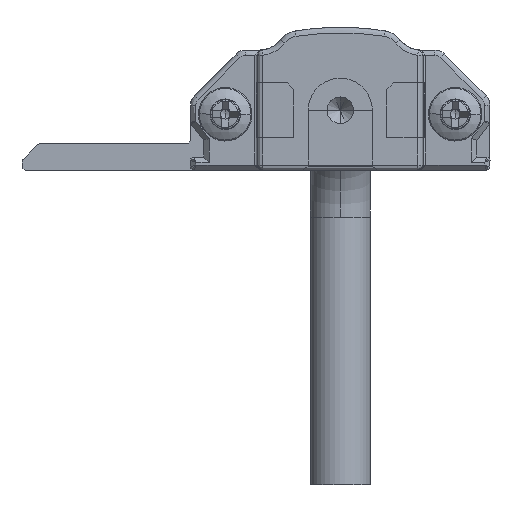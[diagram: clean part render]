
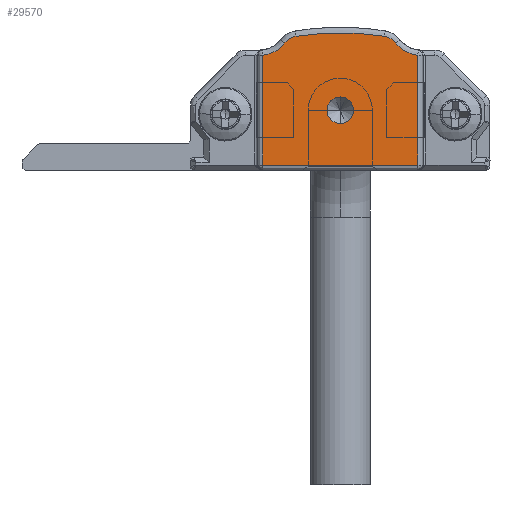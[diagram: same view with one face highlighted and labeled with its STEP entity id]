
A CAD part, front view. The second image highlights one B-rep face of the part: STEP entity #29570.
In plain terms, the highlighted planar face has unit normal (0, -1, 0).
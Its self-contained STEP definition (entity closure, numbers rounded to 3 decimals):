
#45 = CARTESIAN_POINT ( 'NONE',  ( 5.4, -15., 0.4 ) ) ;
#313 = CIRCLE ( 'NONE', #10990, 2.4 ) ;
#337 = VECTOR ( 'NONE', #11126, 1000. ) ;
#401 = EDGE_CURVE ( 'NONE', #23149, #19513, #20728, .T. ) ;
#1870 = CIRCLE ( 'NONE', #24294, 1. ) ;
#2158 = CARTESIAN_POINT ( 'NONE',  ( 17.238, -15., 11. ) ) ;
#2738 = VECTOR ( 'NONE', #9562, 1000. ) ;
#3128 = CARTESIAN_POINT ( 'NONE',  ( 17., -15., 8.612 ) ) ;
#4010 = ORIENTED_EDGE ( 'NONE', *, *, #10192, .F. ) ;
#4368 = VERTEX_POINT ( 'NONE', #13896 ) ;
#4387 = CIRCLE ( 'NONE', #13042, 2.4 ) ;
#4577 = CIRCLE ( 'NONE', #16337, 1.3 ) ;
#5317 = ORIENTED_EDGE ( 'NONE', *, *, #23823, .T. ) ;
#5841 = VERTEX_POINT ( 'NONE', #45 ) ;
#5955 = AXIS2_PLACEMENT_3D ( 'NONE', #9484, #9789, #24342 ) ;
#6544 = VERTEX_POINT ( 'NONE', #18116 ) ;
#6897 = FACE_OUTER_BOUND ( 'NONE', #30573, .T. ) ;
#7065 = CARTESIAN_POINT ( 'NONE',  ( 8.1, -15., 8.75 ) ) ;
#7534 = DIRECTION ( 'NONE',  ( 0., 0., -1. ) ) ;
#7836 = CARTESIAN_POINT ( 'NONE',  ( 5.4, -15., 8.612 ) ) ;
#8000 = CARTESIAN_POINT ( 'NONE',  ( 14.508, -15., 10.034 ) ) ;
#8036 = DIRECTION ( 'NONE',  ( 0., 0., -1. ) ) ;
#9001 = CIRCLE ( 'NONE', #15647, 1. ) ;
#9114 = ORIENTED_EDGE ( 'NONE', *, *, #401, .T. ) ;
#9484 = CARTESIAN_POINT ( 'NONE',  ( 11.2, -15., -10.376 ) ) ;
#9562 = DIRECTION ( 'NONE',  ( 0., 0., -1. ) ) ;
#9789 = DIRECTION ( 'NONE',  ( 0., -1., 0. ) ) ;
#10192 = EDGE_CURVE ( 'NONE', #6544, #11489, #1870, .T. ) ;
#10380 = EDGE_LOOP ( 'NONE', ( #22402, #4010 ) ) ;
#10696 = DIRECTION ( 'NONE',  ( 0., -1., 0. ) ) ;
#10809 = DIRECTION ( 'NONE',  ( 0., -1., 0. ) ) ;
#10954 = EDGE_CURVE ( 'NONE', #21105, #18534, #21779, .T. ) ;
#10990 = AXIS2_PLACEMENT_3D ( 'NONE', #22700, #27340, #27648 ) ;
#11126 = DIRECTION ( 'NONE',  ( 0., 0., 1. ) ) ;
#11208 = FACE_BOUND ( 'NONE', #10380, .T. ) ;
#11253 = LINE ( 'NONE', #24022, #18796 ) ;
#11291 = DIRECTION ( 'NONE',  ( 0., 0., -1. ) ) ;
#11489 = VERTEX_POINT ( 'NONE', #20494 ) ;
#11497 = EDGE_CURVE ( 'NONE', #12836, #26075, #313, .T. ) ;
#11863 = EDGE_CURVE ( 'NONE', #19513, #4368, #4387, .T. ) ;
#12151 = DIRECTION ( 'NONE',  ( 0., -1., 0. ) ) ;
#12836 = VERTEX_POINT ( 'NONE', #14974 ) ;
#13042 = AXIS2_PLACEMENT_3D ( 'NONE', #2158, #28832, #14295 ) ;
#13597 = EDGE_CURVE ( 'NONE', #5841, #23149, #11253, .T. ) ;
#13896 = CARTESIAN_POINT ( 'NONE',  ( 15.332, -15., 9.541 ) ) ;
#14213 = ORIENTED_EDGE ( 'NONE', *, *, #11863, .T. ) ;
#14295 = DIRECTION ( 'NONE',  ( 0., 0., -1. ) ) ;
#14470 = CARTESIAN_POINT ( 'NONE',  ( 17., -15., 0.4 ) ) ;
#14974 = CARTESIAN_POINT ( 'NONE',  ( 7.068, -15., 9.541 ) ) ;
#15041 = CARTESIAN_POINT ( 'NONE',  ( 11.2, -15., 4.5 ) ) ;
#15647 = AXIS2_PLACEMENT_3D ( 'NONE', #29966, #22465, #26937 ) ;
#16097 = CARTESIAN_POINT ( 'NONE',  ( 14.3, -15., 8.75 ) ) ;
#16337 = AXIS2_PLACEMENT_3D ( 'NONE', #7065, #12151, #7534 ) ;
#16490 = CARTESIAN_POINT ( 'NONE',  ( 17., -15., 8.612 ) ) ;
#18116 = CARTESIAN_POINT ( 'NONE',  ( 11.2, -15., 5.5 ) ) ;
#18519 = CIRCLE ( 'NONE', #19562, 1.3 ) ;
#18534 = VERTEX_POINT ( 'NONE', #20207 ) ;
#18796 = VECTOR ( 'NONE', #19105, 1000. ) ;
#19105 = DIRECTION ( 'NONE',  ( 1., 0., 0. ) ) ;
#19351 = CARTESIAN_POINT ( 'NONE',  ( 5.4, -15., 0.4 ) ) ;
#19513 = VERTEX_POINT ( 'NONE', #16490 ) ;
#19562 = AXIS2_PLACEMENT_3D ( 'NONE', #16097, #10809, #11291 ) ;
#19698 = AXIS2_PLACEMENT_3D ( 'NONE', #31336, #26697, #21608 ) ;
#20207 = CARTESIAN_POINT ( 'NONE',  ( 7.892, -15., 10.034 ) ) ;
#20494 = CARTESIAN_POINT ( 'NONE',  ( 11.2, -15., 3.5 ) ) ;
#20728 = LINE ( 'NONE', #3128, #337 ) ;
#21105 = VERTEX_POINT ( 'NONE', #8000 ) ;
#21385 = ORIENTED_EDGE ( 'NONE', *, *, #10954, .T. ) ;
#21575 = LINE ( 'NONE', #19351, #2738 ) ;
#21608 = DIRECTION ( 'NONE',  ( 0., 0., -1. ) ) ;
#21779 = CIRCLE ( 'NONE', #5955, 20.676 ) ;
#22063 = EDGE_CURVE ( 'NONE', #18534, #12836, #4577, .T. ) ;
#22402 = ORIENTED_EDGE ( 'NONE', *, *, #30192, .F. ) ;
#22465 = DIRECTION ( 'NONE',  ( 0., -1., 0. ) ) ;
#22700 = CARTESIAN_POINT ( 'NONE',  ( 5.162, -15., 11. ) ) ;
#23149 = VERTEX_POINT ( 'NONE', #14470 ) ;
#23823 = EDGE_CURVE ( 'NONE', #4368, #21105, #18519, .T. ) ;
#24022 = CARTESIAN_POINT ( 'NONE',  ( 17., -15., 0.4 ) ) ;
#24294 = AXIS2_PLACEMENT_3D ( 'NONE', #15041, #10696, #8036 ) ;
#24342 = DIRECTION ( 'NONE',  ( 0., 0., -1. ) ) ;
#24376 = EDGE_CURVE ( 'NONE', #26075, #5841, #21575, .T. ) ;
#25632 = ORIENTED_EDGE ( 'NONE', *, *, #22063, .T. ) ;
#26003 = ORIENTED_EDGE ( 'NONE', *, *, #13597, .T. ) ;
#26075 = VERTEX_POINT ( 'NONE', #7836 ) ;
#26476 = ORIENTED_EDGE ( 'NONE', *, *, #24376, .T. ) ;
#26697 = DIRECTION ( 'NONE',  ( 0., -1., 0. ) ) ;
#26937 = DIRECTION ( 'NONE',  ( 0., 0., -1. ) ) ;
#27340 = DIRECTION ( 'NONE',  ( 0., 1., 0. ) ) ;
#27648 = DIRECTION ( 'NONE',  ( 0., 0., -1. ) ) ;
#28832 = DIRECTION ( 'NONE',  ( 0., 1., 0. ) ) ;
#29570 = ADVANCED_FACE ( 'NONE', ( #6897, #11208 ), #30709, .T. ) ;
#29755 = ORIENTED_EDGE ( 'NONE', *, *, #11497, .T. ) ;
#29966 = CARTESIAN_POINT ( 'NONE',  ( 11.2, -15., 4.5 ) ) ;
#30192 = EDGE_CURVE ( 'NONE', #11489, #6544, #9001, .T. ) ;
#30573 = EDGE_LOOP ( 'NONE', ( #9114, #14213, #5317, #21385, #25632, #29755, #26476, #26003 ) ) ;
#30709 = PLANE ( 'NONE',  #19698 ) ;
#31336 = CARTESIAN_POINT ( 'NONE',  ( 22.15, -15., 3.606 ) ) ;
